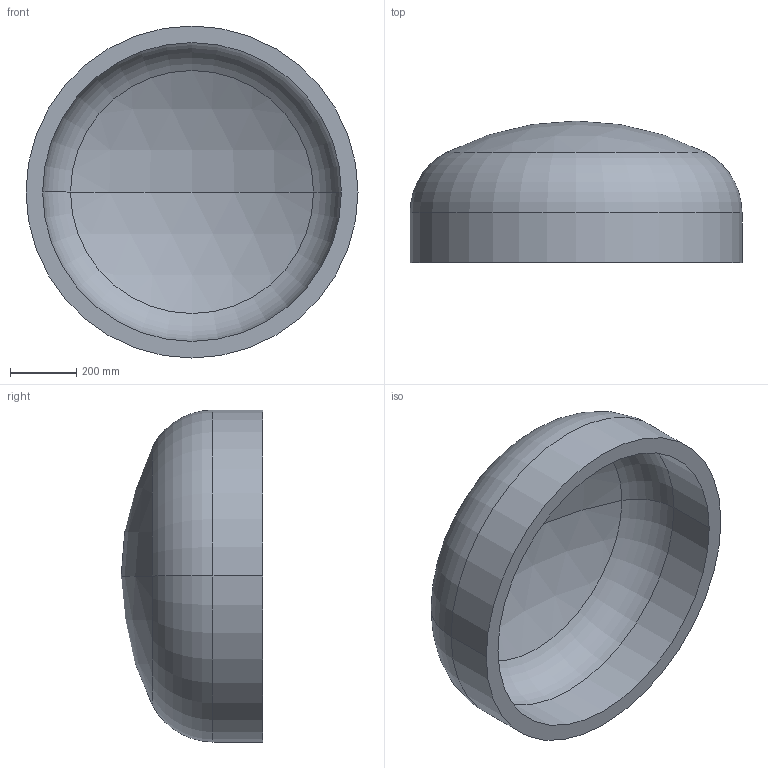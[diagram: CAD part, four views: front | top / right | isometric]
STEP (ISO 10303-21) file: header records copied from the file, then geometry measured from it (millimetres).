
FILE_DESCRIPTION (( 'STEP AP203' ), '1' );
FILE_NAME ('DIN 28013 Korbbogenform_-_Boden DIN 28013 - 1000 x 150 - I - s=50.step', '2016-07-01T08:50:52', ( '' ), ( '' ), 'SwSTEP 2.0', 'SolidWorks 2013', '' );
FILE_SCHEMA (( 'CONFIG_CONTROL_DESIGN' ));
Length unit declared in the file: millimetre
Products named in the file (1): DIN 28013 Korbbogenform_-_Boden DIN 28013 - 1000 x 150 - I - s=50
Bounding box: 1000 x 426.41 x 1000 mm (x, y, z)
Volume: 73455264.6 mm3; surface area: 3092671.6 mm2
Topology: 1 solids, 1 shells, 13 faces, 24 edges, 14 vertices
Faces by surface type: torus 4, cylinder 4, sphere 4, plane 1
Entity records: 407 total; most frequent: DIRECTION 72, CARTESIAN_POINT 52, ORIENTED_EDGE 48, AXIS2_PLACEMENT_3D 34, EDGE_CURVE 24, CIRCLE 20, EDGE_LOOP 14, VERTEX_POINT 14
